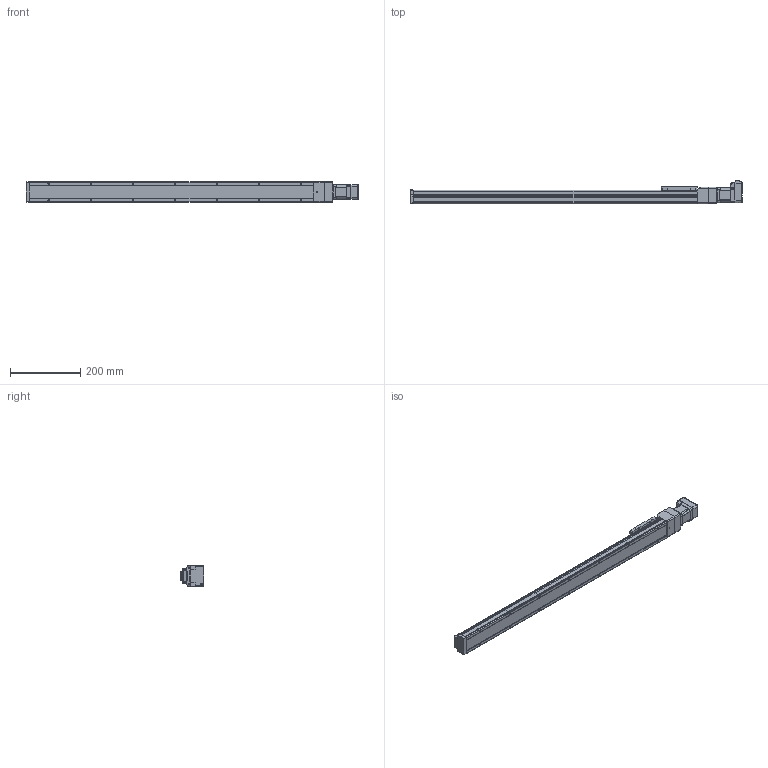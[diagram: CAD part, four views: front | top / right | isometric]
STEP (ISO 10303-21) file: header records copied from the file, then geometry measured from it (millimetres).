
FILE_DESCRIPTION (( 'STEP AP214' ), '1' );
FILE_NAME ('LEFS3(+)-25NM1Œû-700-17L.STEP', '2023-05-31T02:35:39', ( '' ), ( '' ), 'SwSTEP 2.0', 'SolidWorks 2019', '' );
FILE_SCHEMA (( 'AUTOMOTIVE_DESIGN' ));
Length unit declared in the file: millimetre
Products named in the file (5): LEFS3(+)-25NM1仩_BODY_700; LEFS3(+)-25NM1_TABLE; LEFS3(+)-25NM1口-700-17L; LEFS3(+)-25NM1_MOTOR Flange; CM3(+)-17L50A
Assembly tree (4 placements, depth 2):
  LEFS3(+)-25NM1口-700-17L
    LEFS3(+)-25NM1仩_BODY_700
    LEFS3(+)-25NM1_TABLE
    LEFS3(+)-25NM1_MOTOR Flange
    CM3(+)-17L50A
Bounding box: 947.3 x 66.75 x 58 mm (x, y, z)
Volume: 1843669.5 mm3; surface area: 228896.5 mm2
Topology: 5 solids, 5 shells, 1007 faces, 2602 edges, 1640 vertices
Faces by surface type: plane 513, cylinder 322, cone 83, torus 39, bspline 29, sphere 21
Entity records: 40824 total; most frequent: CARTESIAN_POINT 7440, ORIENTED_EDGE 5142, DIRECTION 4966, EDGE_CURVE 2571, AXIS2_PLACEMENT_3D 1678, VERTEX_POINT 1640, VECTOR 1610, LINE 1610
